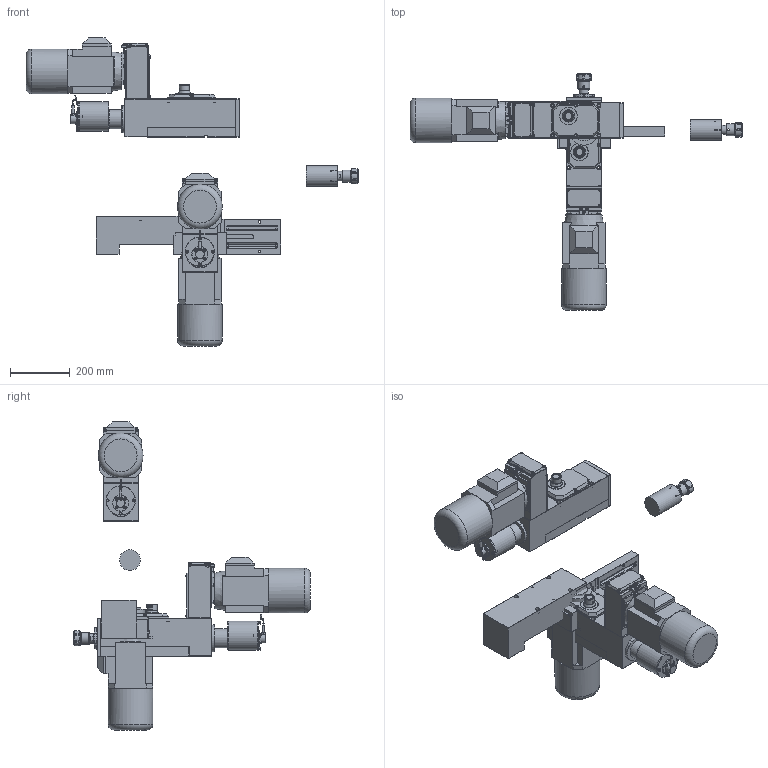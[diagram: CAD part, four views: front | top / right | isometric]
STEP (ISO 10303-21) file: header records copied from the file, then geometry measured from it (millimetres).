
FILE_DESCRIPTION( ( 'STEP AP203' ), '1' );
FILE_NAME( 'C:/Documents and Settings/Saverio/Desktop/disegni ironcad/unità serie 1/M 112/M 112_A03_P.stp', '2013-12-12T18:35:29', ( ' ' ), ( ' ' ), 'XStep 1.0', ' ', ' ' );
FILE_SCHEMA( ( 'CONFIG_CONTROL_DESIGN' ) );
Length unit declared in the file: metre
Products named in the file (54): Assem1; Assem2; Assem3; 1; 2; 3; 4; 5; 6; 7; 8; 9; 10; 11; 12; 13; 14; 15; 16; 17; 18; 19; 20; 21; 22; 23; 24; 25; 26; 27; 28; 29; 30; 31; 32; 33; 34; 35; 36; 37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
Bounding box: 1112.39 x 794 x 1032.13 mm (x, y, z)
Volume: 37778486.4 mm3; surface area: 3091386.1 mm2
Topology: 153 solids, 153 shells, 3222 faces, 7287 edges, 4548 vertices
Faces by surface type: plane 1965, cylinder 693, cone 456, sphere 60, bspline 30, torus 18
Full cylindrical faces by diameter (mm): 4.134 x3, 4.5 x12, 5 x33, 5.5 x15, 6 x21, 6.5 x6, 6.75 x6, 6.9 x12, 7 x3, 8 x3, 8.385 x15, 8.5 x24, 9.87 x24, 13.5 x12, 18 x9, 20 x3, 23 x6, 27 x3, 30 x9, 32 x9, 38.5 x3, 40 x3, 41 x3, 47 x3, 50 x3, 52 x6, 52.5 x3, 54 x9, 54.4 x3, 60 x3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
Entity records: 32788 total; most frequent: CARTESIAN_POINT 7419, DIRECTION 4765, ORIENTED_EDGE 4324, EDGE_CURVE 2162, AXIS2_PLACEMENT_3D 1729, VERTEX_POINT 1488, EDGE_LOOP 1430, LINE 1307
